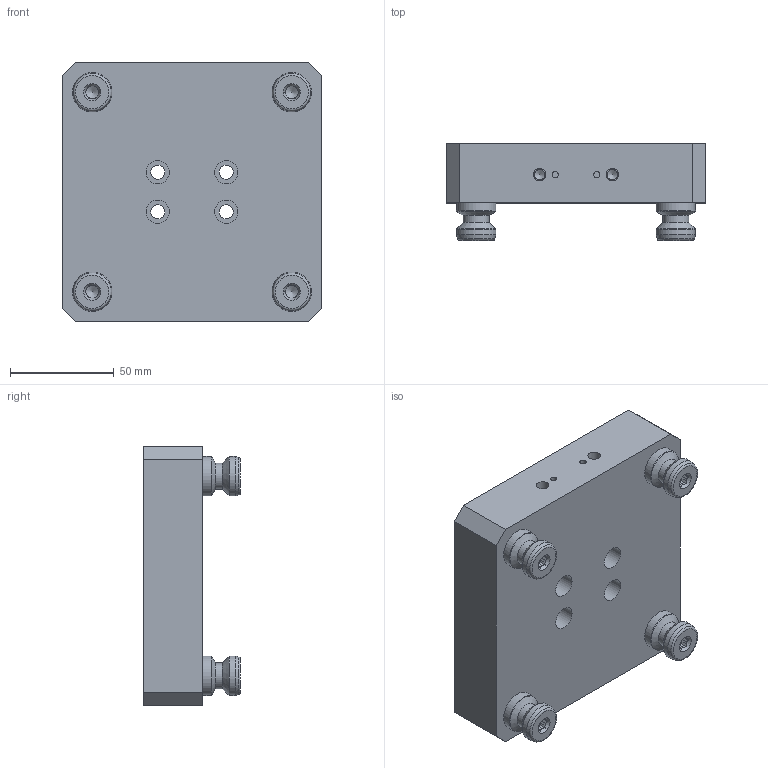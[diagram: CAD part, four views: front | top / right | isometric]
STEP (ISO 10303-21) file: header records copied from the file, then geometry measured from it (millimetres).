
FILE_DESCRIPTION (( 'STEP AP214' ), '1' );
FILE_NAME ('A96-CERX-1PS_WEBSITE.step', '2025-08-11T13:20:40', ( '' ), ( '' ), 'SwSTEP 2.0', 'SolidWorks 2025', '' );
FILE_SCHEMA (( 'AUTOMOTIVE_DESIGN' ));
Length unit declared in the file: millimetre
Products named in the file (5): D_PS20F_WEBSITE; D_PS20F_WEBSITE_HARD TURN; D_M10-1.5 X 25mm.Set Screw_WEBSITE; A96-CERX-1PS_WEBSITE; A96-CERX-1_WEBSITE
Assembly tree (7 placements, depth 3):
  A96-CERX-1PS_WEBSITE
    A96-CERX-1_WEBSITE
    D_PS20F_WEBSITE  x4
      D_PS20F_WEBSITE_HARD TURN
      D_M10-1.5 X 25mm.Set Screw_WEBSITE
Bounding box: 125 x 46.58 x 125 mm (x, y, z)
Volume: 450044.3 mm3; surface area: 67092.1 mm2
Topology: 9 solids, 9 shells, 332 faces, 743 edges, 450 vertices
Faces by surface type: plane 167, cone 78, cylinder 63, torus 24
Full cylindrical faces by diameter (mm): 3.03 x2, 5 x2, 5.774 x4, 6 x2, 6.147 x4, 6.756 x4, 8.5 x8, 10 x8, 11.112 x4, 12.497 x4, 15.992 x4, 16.02 x4, 19.012 x8, 19.972 x4, 50.838 x1
Entity records: 3669 total; most frequent: CARTESIAN_POINT 601, DIRECTION 538, ORIENTED_EDGE 380, AXIS2_PLACEMENT_3D 233, EDGE_LOOP 202, EDGE_CURVE 190, FACE_OUTER_BOUND 161, VERTEX_POINT 146
